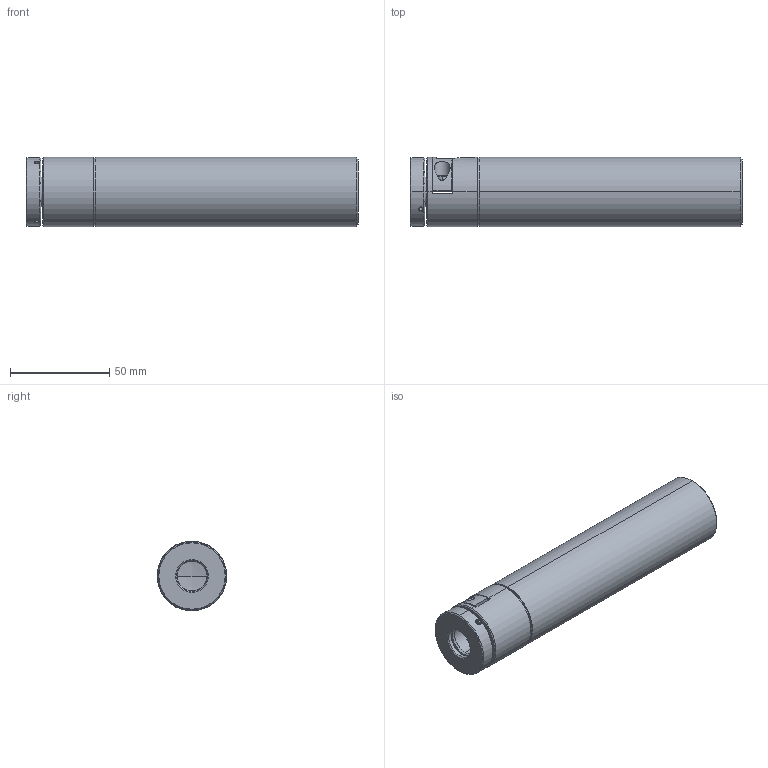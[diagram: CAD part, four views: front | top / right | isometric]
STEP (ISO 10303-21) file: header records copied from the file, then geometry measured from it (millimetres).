
FILE_DESCRIPTION (( 'STEP AP214' ), '1' );
FILE_NAME ('PT-P00617.STEP', '2018-09-19T09:30:17', ( '' ), ( '' ), 'SwSTEP 2.0', 'SolidWorks 2014', '' );
FILE_SCHEMA (( 'AUTOMOTIVE_DESIGN' ));
Length unit declared in the file: millimetre
Products named in the file (1): PT-P00617
Bounding box: 167.5 x 35 x 35 mm (x, y, z)
Surface area: 27279.3 mm2 (no closed solid volume)
Topology: 0 solids, 17 shells, 183 faces, 564 edges, 390 vertices
Faces by surface type: plane 77, cylinder 62, cone 33, torus 6, bspline 3, sphere 2
Entity records: 8775 total; most frequent: CARTESIAN_POINT 1822, DIRECTION 1046, ORIENTED_EDGE 922, EDGE_CURVE 558, AXIS2_PLACEMENT_3D 403, VERTEX_POINT 390, LINE 240, VECTOR 240
